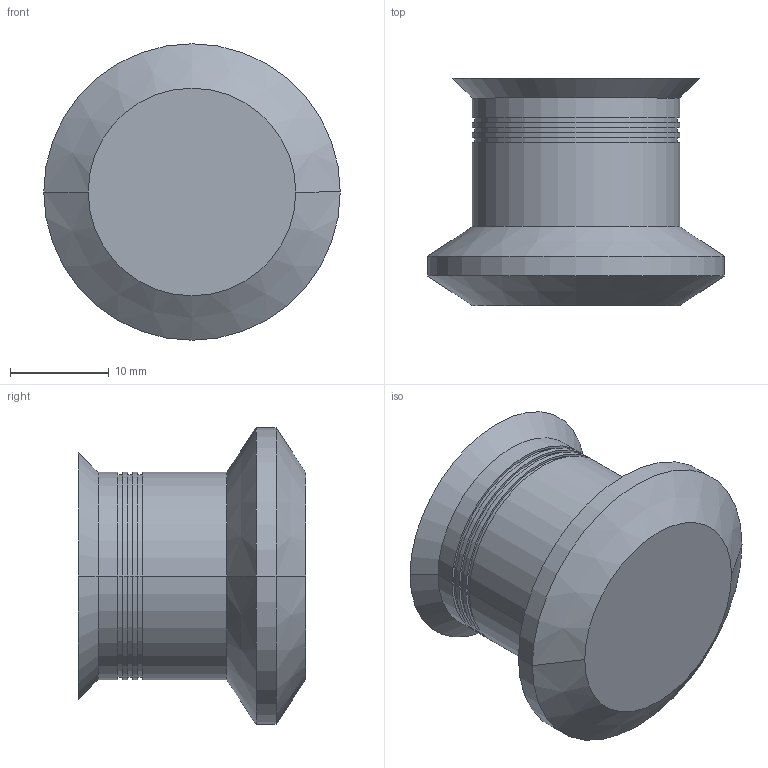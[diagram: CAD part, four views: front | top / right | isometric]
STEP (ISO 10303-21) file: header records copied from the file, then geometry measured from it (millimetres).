
FILE_DESCRIPTION( ( '' ), '1' );
FILE_NAME( 'C:/Documents and Settings/Nikhil/Desktop/Nik/Done/9070580.stp', '2013-10-23T10:25:51', ( '' ), ( '' ), ' ', ' ', ' ' );
FILE_SCHEMA( ( 'automotive_design' ) );
Length unit declared in the file: millimetre
Products named in the file (1): 1
Bounding box: 30 x 23 x 30 mm (x, y, z)
Volume: 9664 mm3; surface area: 3175.4 mm2
Topology: 1 solids, 1 shells, 33 faces, 64 edges, 40 vertices
Faces by surface type: cylinder 18, plane 9, cone 6
Entity records: 1662 total; most frequent: DIRECTION 172, STYLED_ITEM 138, PRESENTATION_STYLE_ASSIGNMENT 138, CARTESIAN_POINT 138, COLOUR_RGB 138, ORIENTED_EDGE 128, AXIS2_PLACEMENT_3D 74, EDGE_CURVE 64
